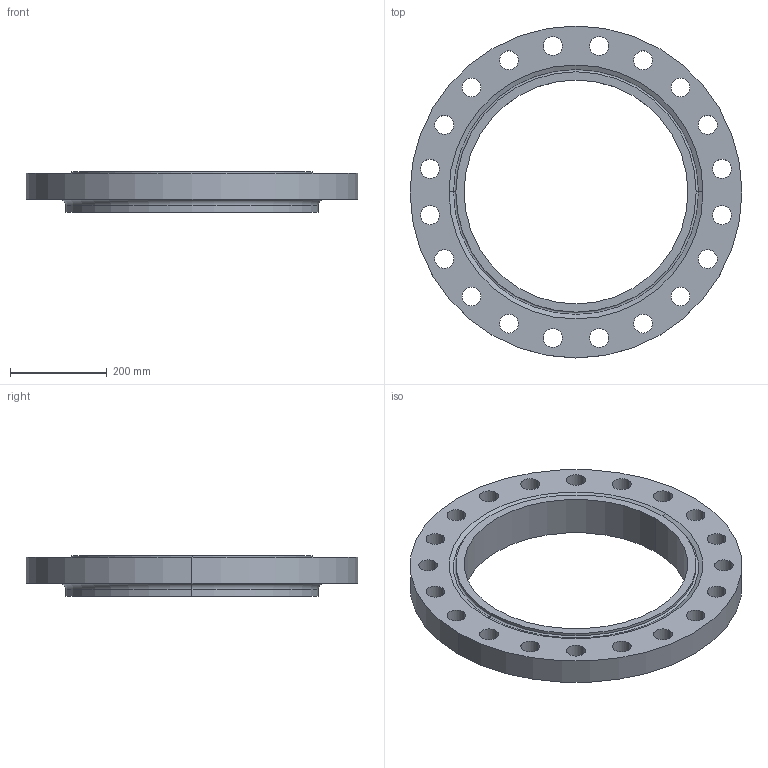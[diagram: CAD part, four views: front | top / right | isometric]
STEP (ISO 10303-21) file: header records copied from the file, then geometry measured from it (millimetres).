
FILE_DESCRIPTION (( 'STEP AP214' ), '1' );
FILE_NAME ('PN40 DN450 Type 12 - Type H Face.STEP', '2018-12-29T02:34:15', ( '' ), ( '' ), 'SwSTEP 2.0', 'SolidWorks 2019', '' );
FILE_SCHEMA (( 'AUTOMOTIVE_DESIGN' ));
Length unit declared in the file: millimetre
Products named in the file (1): PN40 DN450 Type 12 - Type H Face
Bounding box: 685 x 685 x 84 mm (x, y, z)
Volume: 10869077.5 mm3; surface area: 772575.8 mm2
Topology: 1 solids, 1 shells, 58 faces, 156 edges, 102 vertices
Faces by surface type: cylinder 48, torus 4, plane 4, cone 2
Entity records: 1996 total; most frequent: DIRECTION 380, CARTESIAN_POINT 317, ORIENTED_EDGE 312, AXIS2_PLACEMENT_3D 165, EDGE_CURVE 156, CIRCLE 106, EDGE_LOOP 102, VERTEX_POINT 102
